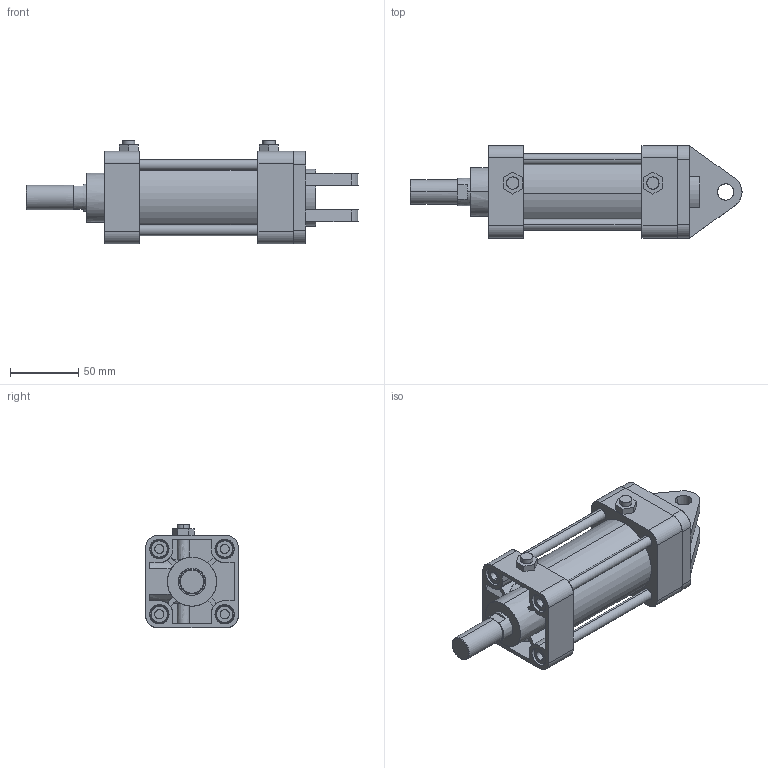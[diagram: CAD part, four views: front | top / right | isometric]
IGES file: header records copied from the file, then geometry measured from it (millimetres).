
Start section: SolidWorks IGES file using analytic representation for surfaces
Global section: file name: C:\Users\Toshiba\Desktop\KG2-50-50-W.IGS; native system: SolidWorks 2014; preprocessor: SolidWorks 2014; author: Toshiba; date: 160401.161354; units: millimetre
Bounding box: 244 x 68 x 76.3 mm (x, y, z)
Surface area: 117841.3 mm2 (no closed solid volume)
Topology: 0 solids, 0 shells, 368 faces, 5692 edges, 5688 vertices
Faces by surface type: bspline 193, revolution 175
